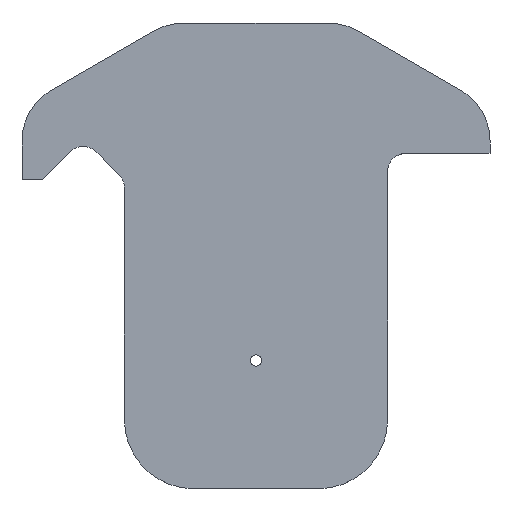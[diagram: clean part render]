
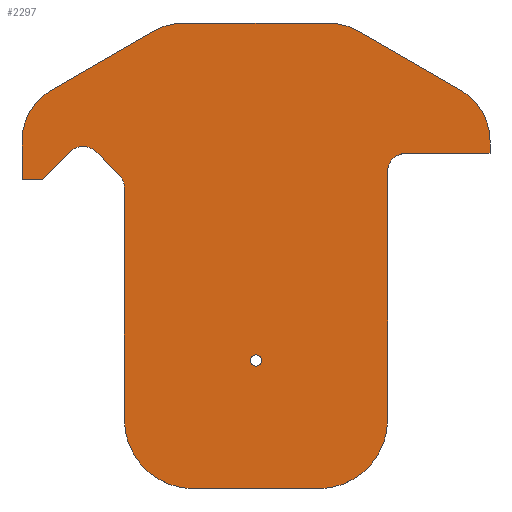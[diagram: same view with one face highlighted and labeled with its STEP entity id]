
A CAD part, top view. The second image highlights one B-rep face of the part: STEP entity #2297.
In plain terms, the highlighted planar face has unit normal (0, 0, 1).
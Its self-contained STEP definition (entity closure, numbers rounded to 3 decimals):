
#6=DIRECTION('',(-1.,0.,0.));
#7=VECTOR('',#6,1.761);
#8=CARTESIAN_POINT('',(-18.559,15.697,1.));
#9=LINE('',#8,#7);
#26=CARTESIAN_POINT('',(5.43,-5.131,1.));
#27=DIRECTION('',(0.,0.,1.));
#28=DIRECTION('',(0.,-1.,0.));
#29=AXIS2_PLACEMENT_3D('',#26,#27,#28);
#31=DIRECTION('',(-1.,0.,0.));
#32=VECTOR('',#31,10.86);
#33=CARTESIAN_POINT('',(5.43,-11.131,1.));
#34=LINE('',#33,#32);
#35=CARTESIAN_POINT('',(-5.43,-5.131,1.));
#36=DIRECTION('',(0.,0.,1.));
#37=DIRECTION('',(-1.,0.,0.));
#38=AXIS2_PLACEMENT_3D('',#35,#36,#37);
#40=DIRECTION('',(0.,1.,0.));
#41=VECTOR('',#40,5.056);
#42=CARTESIAN_POINT('',(-11.43,-5.131,1.));
#43=LINE('',#42,#41);
#44=CARTESIAN_POINT('',(-6.35,-0.051,1.));
#45=DIRECTION('',(0.,0.,1.));
#46=DIRECTION('',(-1.,0.,0.));
#47=AXIS2_PLACEMENT_3D('',#44,#45,#46);
#49=CARTESIAN_POINT('',(-13.005,15.037,1.));
#50=DIRECTION('',(0.,0.,-1.));
#51=DIRECTION('',(0.807,0.591,0.));
#52=AXIS2_PLACEMENT_3D('',#49,#50,#51);
#54=DIRECTION('',(0.707,-0.707,0.));
#55=VECTOR('',#54,3.06);
#56=CARTESIAN_POINT('',(-13.898,18.132,1.));
#57=LINE('',#56,#55);
#58=CARTESIAN_POINT('',(-15.011,17.018,1.));
#59=DIRECTION('',(0.,0.,-1.));
#60=DIRECTION('',(-0.707,0.707,0.));
#61=AXIS2_PLACEMENT_3D('',#58,#59,#60);
#63=DIRECTION('',(0.707,0.707,0.));
#64=VECTOR('',#63,3.443);
#65=CARTESIAN_POINT('',(-18.559,15.697,1.));
#66=LINE('',#65,#64);
#67=CARTESIAN_POINT('',(-15.24,19.074,1.));
#68=DIRECTION('',(0.,0.,1.));
#69=DIRECTION('',(-0.5,0.866,0.));
#70=AXIS2_PLACEMENT_3D('',#67,#68,#69);
#72=DIRECTION('',(-0.866,-0.5,0.));
#73=VECTOR('',#72,10.265);
#74=CARTESIAN_POINT('',(-8.89,28.606,1.));
#75=LINE('',#74,#73);
#76=CARTESIAN_POINT('',(-6.35,24.206,1.));
#77=DIRECTION('',(0.,0.,1.));
#78=DIRECTION('',(0.,1.,0.));
#79=AXIS2_PLACEMENT_3D('',#76,#77,#78);
#81=CARTESIAN_POINT('',(6.35,24.206,1.));
#82=DIRECTION('',(0.,0.,1.));
#83=DIRECTION('',(0.5,0.866,0.));
#84=AXIS2_PLACEMENT_3D('',#81,#82,#83);
#86=DIRECTION('',(-0.866,0.5,0.));
#87=VECTOR('',#86,10.265);
#88=CARTESIAN_POINT('',(17.78,23.473,1.));
#89=LINE('',#88,#87);
#90=CARTESIAN_POINT('',(15.24,19.074,1.));
#91=DIRECTION('',(0.,0.,1.));
#92=DIRECTION('',(1.,0.,0.));
#93=AXIS2_PLACEMENT_3D('',#90,#91,#92);
#95=CARTESIAN_POINT('',(13.005,16.408,1.));
#96=DIRECTION('',(0.,0.,-1.));
#97=DIRECTION('',(-1.,0.,0.));
#98=AXIS2_PLACEMENT_3D('',#95,#96,#97);
#100=CARTESIAN_POINT('',(6.35,-0.051,1.));
#101=DIRECTION('',(0.,0.,1.));
#102=DIRECTION('',(1.,-0.005,0.));
#103=AXIS2_PLACEMENT_3D('',#100,#101,#102);
#105=DIRECTION('',(0.,-1.,0.));
#106=VECTOR('',#105,5.056);
#107=CARTESIAN_POINT('',(11.43,-0.075,1.));
#108=LINE('',#107,#106);
#109=CARTESIAN_POINT('',(0.,0.,1.));
#110=DIRECTION('',(0.,0.,-1.));
#111=DIRECTION('',(-1.,0.,0.));
#112=AXIS2_PLACEMENT_3D('',#109,#110,#111);
#114=CARTESIAN_POINT('',(0.,0.,1.));
#115=DIRECTION('',(0.,0.,-1.));
#116=DIRECTION('',(1.,0.,0.));
#117=AXIS2_PLACEMENT_3D('',#114,#115,#116);
#780=DIRECTION('',(0.,1.,0.));
#781=VECTOR('',#780,15.088);
#782=CARTESIAN_POINT('',(-11.43,-0.051,1.));
#783=LINE('',#782,#781);
#1083=DIRECTION('',(0.,-1.,0.));
#1084=VECTOR('',#1083,16.459);
#1085=CARTESIAN_POINT('',(11.43,16.408,1.));
#1086=LINE('',#1085,#1084);
#1116=DIRECTION('',(-1.,0.,0.));
#1117=VECTOR('',#1116,7.315);
#1118=CARTESIAN_POINT('',(20.32,17.983,1.));
#1119=LINE('',#1118,#1117);
#1128=DIRECTION('',(0.,-1.,0.));
#1129=VECTOR('',#1128,1.09);
#1130=CARTESIAN_POINT('',(20.32,19.074,1.));
#1131=LINE('',#1130,#1129);
#1182=DIRECTION('',(1.,0.,0.));
#1183=VECTOR('',#1182,12.7);
#1184=CARTESIAN_POINT('',(-6.35,29.286,1.));
#1185=LINE('',#1184,#1183);
#1236=DIRECTION('',(0.,1.,0.));
#1237=VECTOR('',#1236,3.376);
#1238=CARTESIAN_POINT('',(-20.32,15.697,1.));
#1239=LINE('',#1238,#1237);
#2122=CARTESIAN_POINT('',(-18.559,15.697,1.));
#2123=CARTESIAN_POINT('',(-20.32,15.697,1.));
#2124=VERTEX_POINT('',#2122);
#2125=VERTEX_POINT('',#2123);
#2126=CARTESIAN_POINT('',(-6.35,29.286,1.));
#2127=CARTESIAN_POINT('',(6.35,29.286,1.));
#2128=VERTEX_POINT('',#2126);
#2129=VERTEX_POINT('',#2127);
#2130=CARTESIAN_POINT('',(-17.78,23.473,1.));
#2131=CARTESIAN_POINT('',(-20.32,19.074,1.));
#2132=VERTEX_POINT('',#2130);
#2133=VERTEX_POINT('',#2131);
#2134=CARTESIAN_POINT('',(11.43,16.408,1.));
#2135=CARTESIAN_POINT('',(13.005,17.983,1.));
#2136=VERTEX_POINT('',#2134);
#2137=VERTEX_POINT('',#2135);
#2138=CARTESIAN_POINT('',(8.89,28.606,1.));
#2139=VERTEX_POINT('',#2138);
#2140=CARTESIAN_POINT('',(-11.43,-0.051,1.));
#2141=CARTESIAN_POINT('',(-11.43,15.037,1.));
#2142=VERTEX_POINT('',#2140);
#2143=VERTEX_POINT('',#2141);
#2144=CARTESIAN_POINT('',(-11.734,15.968,1.));
#2145=VERTEX_POINT('',#2144);
#2146=CARTESIAN_POINT('',(20.32,17.983,1.));
#2147=VERTEX_POINT('',#2146);
#2148=CARTESIAN_POINT('',(-13.898,18.132,1.));
#2149=VERTEX_POINT('',#2148);
#2150=CARTESIAN_POINT('',(-16.125,18.132,1.));
#2151=VERTEX_POINT('',#2150);
#2152=CARTESIAN_POINT('',(-8.89,28.606,1.));
#2153=VERTEX_POINT('',#2152);
#2154=CARTESIAN_POINT('',(20.32,19.074,1.));
#2155=CARTESIAN_POINT('',(17.78,23.473,1.));
#2156=VERTEX_POINT('',#2154);
#2157=VERTEX_POINT('',#2155);
#2158=CARTESIAN_POINT('',(11.43,-0.051,1.));
#2159=VERTEX_POINT('',#2158);
#2160=CARTESIAN_POINT('',(-11.43,-0.075,1.));
#2161=VERTEX_POINT('',#2160);
#2162=CARTESIAN_POINT('',(11.43,-0.075,1.));
#2163=VERTEX_POINT('',#2162);
#2164=CARTESIAN_POINT('',(5.43,-11.131,1.));
#2165=CARTESIAN_POINT('',(11.43,-5.131,1.));
#2166=VERTEX_POINT('',#2164);
#2167=VERTEX_POINT('',#2165);
#2168=CARTESIAN_POINT('',(-11.43,-5.131,1.));
#2169=CARTESIAN_POINT('',(-5.43,-11.131,1.));
#2170=VERTEX_POINT('',#2168);
#2171=VERTEX_POINT('',#2169);
#2172=CARTESIAN_POINT('',(-0.5,0.,1.));
#2173=CARTESIAN_POINT('',(0.5,0.,1.));
#2174=VERTEX_POINT('',#2172);
#2175=VERTEX_POINT('',#2173);
#2236=CARTESIAN_POINT('',(-15.24,19.074,1.));
#2237=DIRECTION('',(0.,0.,1.));
#2238=DIRECTION('',(1.,0.,0.));
#2239=AXIS2_PLACEMENT_3D('',#2236,#2237,#2238);
#2240=PLANE('',#2239);
#2242=ORIENTED_EDGE('',*,*,#2241,.F.);
#2244=ORIENTED_EDGE('',*,*,#2243,.T.);
#2246=ORIENTED_EDGE('',*,*,#2245,.F.);
#2248=ORIENTED_EDGE('',*,*,#2247,.T.);
#2250=ORIENTED_EDGE('',*,*,#2249,.F.);
#2252=ORIENTED_EDGE('',*,*,#2251,.T.);
#2254=ORIENTED_EDGE('',*,*,#2253,.F.);
#2256=ORIENTED_EDGE('',*,*,#2255,.F.);
#2258=ORIENTED_EDGE('',*,*,#2257,.F.);
#2259=ORIENTED_EDGE('',*,*,#2229,.F.);
#2260=ORIENTED_EDGE('',*,*,#2185,.T.);
#2262=ORIENTED_EDGE('',*,*,#2261,.T.);
#2264=ORIENTED_EDGE('',*,*,#2263,.F.);
#2266=ORIENTED_EDGE('',*,*,#2265,.F.);
#2268=ORIENTED_EDGE('',*,*,#2267,.F.);
#2270=ORIENTED_EDGE('',*,*,#2269,.T.);
#2272=ORIENTED_EDGE('',*,*,#2271,.F.);
#2274=ORIENTED_EDGE('',*,*,#2273,.F.);
#2276=ORIENTED_EDGE('',*,*,#2275,.F.);
#2278=ORIENTED_EDGE('',*,*,#2277,.T.);
#2280=ORIENTED_EDGE('',*,*,#2279,.T.);
#2282=ORIENTED_EDGE('',*,*,#2281,.F.);
#2284=ORIENTED_EDGE('',*,*,#2283,.T.);
#2286=ORIENTED_EDGE('',*,*,#2285,.F.);
#2288=ORIENTED_EDGE('',*,*,#2287,.T.);
#2289=EDGE_LOOP('',(#2242,#2244,#2246,#2248,#2250,#2252,#2254,#2256,#2258,#2259,
#2260,#2262,#2264,#2266,#2268,#2270,#2272,#2274,#2276,#2278,#2280,#2282,#2284,
#2286,#2288));
#2290=FACE_OUTER_BOUND('',#2289,.F.);
#2292=ORIENTED_EDGE('',*,*,#2291,.F.);
#2294=ORIENTED_EDGE('',*,*,#2293,.F.);
#2295=EDGE_LOOP('',(#2292,#2294));
#2296=FACE_BOUND('',#2295,.F.);
#2297=ADVANCED_FACE('',(#2290,#2296),#2240,.T.);
#30=CIRCLE('',#29,6.);
#39=CIRCLE('',#38,6.);
#48=CIRCLE('',#47,5.08);
#53=CIRCLE('',#52,1.575);
#62=CIRCLE('',#61,1.575);
#71=CIRCLE('',#70,5.08);
#80=CIRCLE('',#79,5.08);
#85=CIRCLE('',#84,5.08);
#94=CIRCLE('',#93,5.08);
#99=CIRCLE('',#98,1.575);
#104=CIRCLE('',#103,5.08);
#113=CIRCLE('',#112,0.5);
#118=CIRCLE('',#117,0.5);
#2185=EDGE_CURVE('',#2124,#2125,#9,.T.);
#2229=EDGE_CURVE('',#2124,#2151,#66,.T.);
#2241=EDGE_CURVE('',#2166,#2167,#30,.T.);
#2243=EDGE_CURVE('',#2166,#2171,#34,.T.);
#2245=EDGE_CURVE('',#2170,#2171,#39,.T.);
#2247=EDGE_CURVE('',#2170,#2161,#43,.T.);
#2249=EDGE_CURVE('',#2142,#2161,#48,.T.);
#2251=EDGE_CURVE('',#2142,#2143,#783,.T.);
#2253=EDGE_CURVE('',#2145,#2143,#53,.T.);
#2255=EDGE_CURVE('',#2149,#2145,#57,.T.);
#2257=EDGE_CURVE('',#2151,#2149,#62,.T.);
#2261=EDGE_CURVE('',#2125,#2133,#1239,.T.);
#2263=EDGE_CURVE('',#2132,#2133,#71,.T.);
#2265=EDGE_CURVE('',#2153,#2132,#75,.T.);
#2267=EDGE_CURVE('',#2128,#2153,#80,.T.);
#2269=EDGE_CURVE('',#2128,#2129,#1185,.T.);
#2271=EDGE_CURVE('',#2139,#2129,#85,.T.);
#2273=EDGE_CURVE('',#2157,#2139,#89,.T.);
#2275=EDGE_CURVE('',#2156,#2157,#94,.T.);
#2277=EDGE_CURVE('',#2156,#2147,#1131,.T.);
#2279=EDGE_CURVE('',#2147,#2137,#1119,.T.);
#2281=EDGE_CURVE('',#2136,#2137,#99,.T.);
#2283=EDGE_CURVE('',#2136,#2159,#1086,.T.);
#2285=EDGE_CURVE('',#2163,#2159,#104,.T.);
#2287=EDGE_CURVE('',#2163,#2167,#108,.T.);
#2291=EDGE_CURVE('',#2174,#2175,#113,.T.);
#2293=EDGE_CURVE('',#2175,#2174,#118,.T.);
